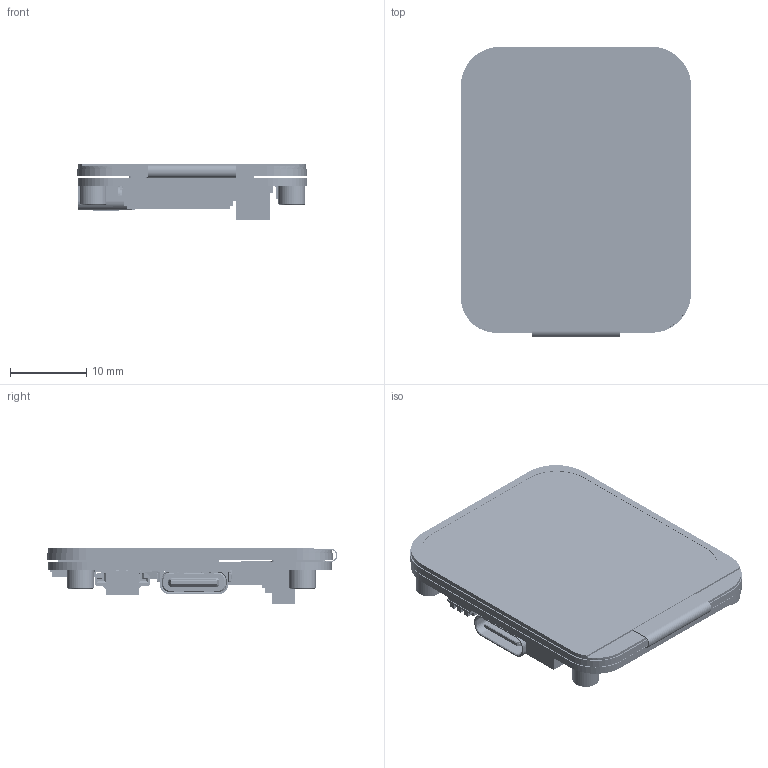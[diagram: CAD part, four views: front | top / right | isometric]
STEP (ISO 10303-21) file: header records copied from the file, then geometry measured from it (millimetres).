
FILE_DESCRIPTION((''),'2;1');
FILE_NAME('ESP32-S3-LCD-1_69_ASM','2024-08-27T16:45:27',('xiaojisheng'),(''),'CREO PARAMETRIC BY PTC INC, 2021063','CREO PARAMETRIC BY PTC INC, 2021063','');
FILE_SCHEMA(('CONFIG_CONTROL_DESIGN','SHAPE_APPEARANCE_LAYERS_GROUPS'));
Products named in the file (171): 1_69INCH-240X280-LCD; SMTSO-M2-2_5ET; BOARD; USER_LIBRARY-RES_0603-0201_1; USER_LIBRARY-RES_0603-0201_2; USER_LIBRARY-RES_0603-0201_3; USER_LIBRARY-RES_0603-0201_4; USER_LIBRARY-RES_0603-0201_ASM; R26_ASM; R23_ASM; R19_ASM; R18_ASM; R17_ASM; EXTRUDED-15486; 1194956864_ASM; L4_ASM; _1_10001; 3_1_A; 2_100; C_0402-672_AF0_ASM_ASM; C_0402-4045_AF0_ASM_ASM; C_0402_ASM; C27_ASM; C26_ASM; USER_LIBRARY-0201_0603M__CAP_1; USER_LIBRARY-0201_0603M__CAP_2; USER_LIBRARY-0201_0603M__CAP_3; USER_LIBRARY-0201_0603M__CAP_ASM; C25_ASM; C24_ASM; SOLID-65107; SOLID-155321; SOLID-156436; SOLID-157486; SOLID-158742; SOLID-159929; SOLID-162332; SOLID-164758; SOLID-167041; SOLID-169347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
Assembly tree (245 placements, depth 8):
  ESP32-S3-LCD-1_69_ASM
    1_69INCH-240X280-LCD
    SMTSO-M2-2_5ET  x4
    ESP32-S3-LCD-1_69-PCBA_ASM
      PCB_ASM
        BOARD
        R26_ASM
          USER_LIBRARY-RES_0603-0201_ASM
            USER_LIBRARY-RES_0603-0201_1
            USER_LIBRARY-RES_0603-0201_2
            USER_LIBRARY-RES_0603-0201_3
            USER_LIBRARY-RES_0603-0201_4
        R23_ASM
          USER_LIBRARY-RES_0603-0201_ASM
            USER_LIBRARY-RES_0603-0201_1
            USER_LIBRARY-RES_0603-0201_2
            USER_LIBRARY-RES_0603-0201_3
            USER_LIBRARY-RES_0603-0201_4
        R19_ASM
          USER_LIBRARY-RES_0603-0201_ASM
            USER_LIBRARY-RES_0603-0201_1
            USER_LIBRARY-RES_0603-0201_2
            USER_LIBRARY-RES_0603-0201_3
            USER_LIBRARY-RES_0603-0201_4
        R18_ASM
          USER_LIBRARY-RES_0603-0201_ASM
            USER_LIBRARY-RES_0603-0201_1
            USER_LIBRARY-RES_0603-0201_2
            USER_LIBRARY-RES_0603-0201_3
            USER_LIBRARY-RES_0603-0201_4
        R17_ASM
          USER_LIBRARY-RES_0603-0201_ASM
            USER_LIBRARY-RES_0603-0201_1
            USER_LIBRARY-RES_0603-0201_2
            USER_LIBRARY-RES_0603-0201_3
            USER_LIBRARY-RES_0603-0201_4
        L4_ASM
          1194956864_ASM
            EXTRUDED-15486
        C27_ASM
          C_0402_ASM
            C_0402-4045_AF0_ASM_ASM
              C_0402-672_AF0_ASM_ASM
                _1_10001
                3_1_A
                2_100
        C26_ASM
          C_0402_ASM
            C_0402-4045_AF0_ASM_ASM
              C_0402-672_AF0_ASM_ASM
                _1_10001
                3_1_A
                2_100
        C25_ASM
          USER_LIBRARY-0201_0603M__CAP_ASM
            USER_LIBRARY-0201_0603M__CAP_1
            USER_LIBRARY-0201_0603M__CAP_2
            USER_LIBRARY-0201_0603M__CAP_3
        C24_ASM
          USER_LIBRARY-0201_0603M__CAP_ASM
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Bounding box: 30.13 x 38 x 7.3 mm (x, y, z)
Volume: 3445.6 mm3; surface area: 8495.9 mm2
Topology: 280 solids, 299 shells, 13140 faces, 34284 edges, 22126 vertices
Faces by surface type: plane 7874, extrusion 2978, cylinder 1804, sphere 366, cone 64, bspline 38, torus 16
Entity records: 199367 total; most frequent: CARTESIAN_POINT 46420, ORIENTED_EDGE 25432, DIRECTION 23444, EDGE_CURVE 12721, VECTOR 10208, LINE 9791, PRESENTATION_STYLE_ASSIGNMENT 8929, VERTEX_POINT 8355
